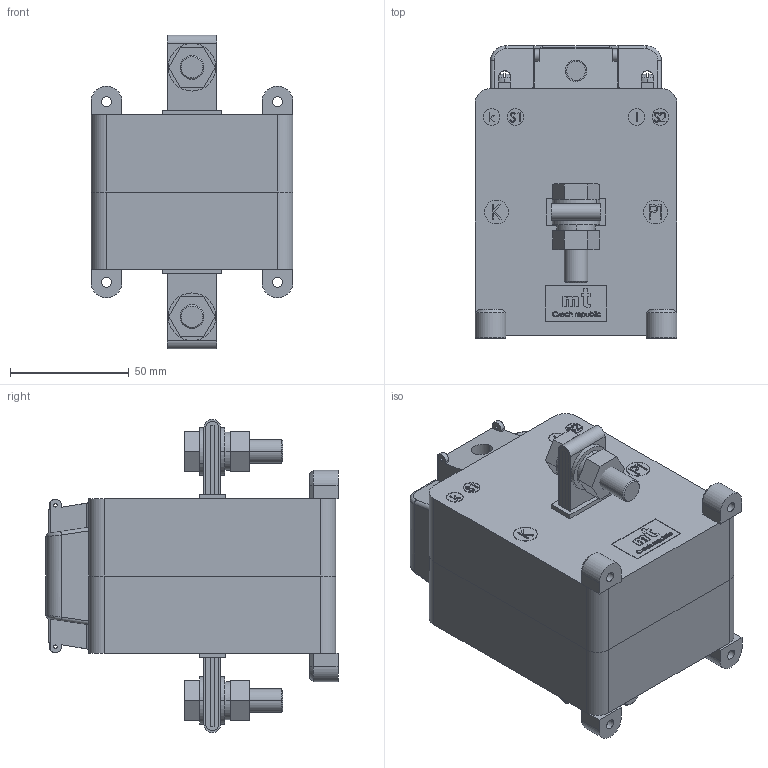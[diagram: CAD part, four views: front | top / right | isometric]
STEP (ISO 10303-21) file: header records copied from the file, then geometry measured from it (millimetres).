
FILE_DESCRIPTION (( 'STEP AP214' ), '1' );
FILE_NAME ('CLA 1.2.STEP', '2024-09-30T14:58:49', ( '' ), ( '' ), 'SwSTEP 2.0', 'SolidWorks 2024', '' );
FILE_SCHEMA (( 'AUTOMOTIVE_DESIGN' ));
Length unit declared in the file: millimetre
Products named in the file (14): Plastic mounting foot; Strip CLA 1.2; Secondary terminal cover CLA; Flat washer D10; CLA 1.2; Rivet 40; Spring washer D10; Secondary terminal; Nut M10; Front plastic case CLA 1.2; Screw M10x35; Back plastic case CLA 1.2; Screw M5x8; Tape label CLA 1.2
Assembly tree (26 placements, depth 2):
  CLA 1.2
    Front plastic case CLA 1.2
    Back plastic case CLA 1.2
    Tape label CLA 1.2
    Secondary terminal cover CLA
    Plastic mounting foot  x4
    Secondary terminal  x2
    Screw M5x8  x2
    Rivet 40  x3
    Strip CLA 1.2
    Flat washer D10  x4
    Screw M10x35  x2
    Spring washer D10  x2
    Nut M10  x2
Bounding box: 85 x 123 x 132 mm (x, y, z)
Volume: 635942.5 mm3; surface area: 131188.2 mm2
Topology: 28 solids, 31 shells, 1380 faces, 3576 edges, 2360 vertices
Faces by surface type: plane 754, bspline 309, cylinder 257, cone 40, torus 12, sphere 8
Entity records: 50919 total; most frequent: CARTESIAN_POINT 23357, ORIENTED_EDGE 5986, DIRECTION 4387, EDGE_CURVE 2993, VERTEX_POINT 1984, LINE 1967, VECTOR 1967, EDGE_LOOP 1287
